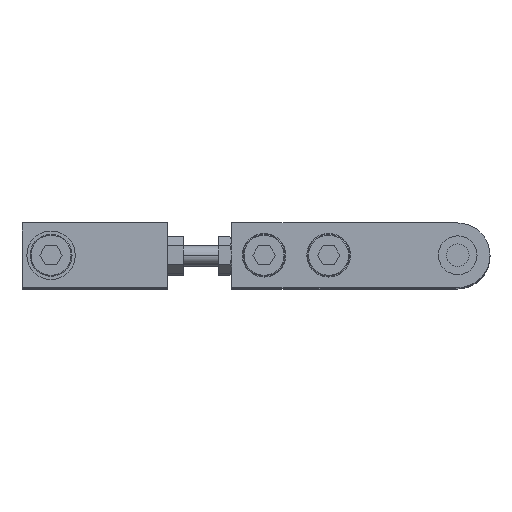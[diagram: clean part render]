
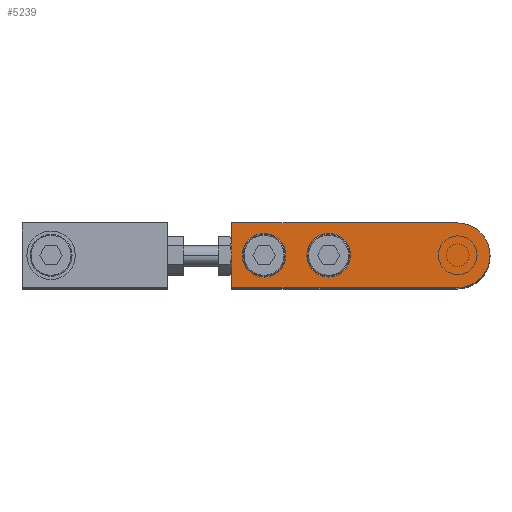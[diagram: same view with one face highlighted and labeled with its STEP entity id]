
A CAD part, top view. The second image highlights one B-rep face of the part: STEP entity #5239.
In plain terms, the highlighted planar face has unit normal (0, 0, 1) as drawn and (0, 0, -1) by its records, which use the part's own axes.
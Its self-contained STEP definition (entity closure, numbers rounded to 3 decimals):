
#3 = DIRECTION ( 'NONE',  ( 0., 1., 0. ) ) ;
#248 = ORIENTED_EDGE ( 'NONE', *, *, #2841, .F. ) ;
#407 = VERTEX_POINT ( 'NONE', #611 ) ;
#455 = FACE_OUTER_BOUND ( 'NONE', #7210, .T. ) ;
#546 = EDGE_CURVE ( 'NONE', #3839, #5453, #6366, .T. ) ;
#578 = DIRECTION ( 'NONE',  ( 0., 0., -1. ) ) ;
#579 = ORIENTED_EDGE ( 'NONE', *, *, #6556, .F. ) ;
#611 = CARTESIAN_POINT ( 'NONE',  ( 33.25, 0., -5. ) ) ;
#638 = CARTESIAN_POINT ( 'NONE',  ( 40., 0., -5. ) ) ;
#671 = AXIS2_PLACEMENT_3D ( 'NONE', #5987, #6589, #3052 ) ;
#749 = CARTESIAN_POINT ( 'NONE',  ( 70., -10., -5. ) ) ;
#891 = VERTEX_POINT ( 'NONE', #7382 ) ;
#920 = VERTEX_POINT ( 'NONE', #3396 ) ;
#935 = CARTESIAN_POINT ( 'NONE',  ( -10., 0., -5. ) ) ;
#970 = EDGE_CURVE ( 'NONE', #920, #891, #4499, .T. ) ;
#1082 = AXIS2_PLACEMENT_3D ( 'NONE', #2791, #2844, #6927 ) ;
#1332 = AXIS2_PLACEMENT_3D ( 'NONE', #3516, #3417, #4641 ) ;
#1341 = CARTESIAN_POINT ( 'NONE',  ( 46.75, 0., -5. ) ) ;
#1601 = ORIENTED_EDGE ( 'NONE', *, *, #970, .F. ) ;
#1743 = DIRECTION ( 'NONE',  ( -1., 0., 0. ) ) ;
#1999 = DIRECTION ( 'NONE',  ( 0., 0., -1. ) ) ;
#2057 = CARTESIAN_POINT ( 'NONE',  ( 0., -10., -5. ) ) ;
#2445 = CIRCLE ( 'NONE', #1082, 6.75 ) ;
#2531 = DIRECTION ( 'NONE',  ( 0., 0., 1. ) ) ;
#2535 = CIRCLE ( 'NONE', #4076, 10. ) ;
#2633 = VECTOR ( 'NONE', #6143, 1000. ) ;
#2635 = CIRCLE ( 'NONE', #5518, 6.75 ) ;
#2791 = CARTESIAN_POINT ( 'NONE',  ( 60., 0., -5. ) ) ;
#2841 = EDGE_CURVE ( 'NONE', #7387, #407, #2635, .T. ) ;
#2844 = DIRECTION ( 'NONE',  ( 0., 0., -1. ) ) ;
#2858 = CARTESIAN_POINT ( 'NONE',  ( 40., 0., -5. ) ) ;
#2861 = CARTESIAN_POINT ( 'NONE',  ( 70., 10., -5. ) ) ;
#2946 = VERTEX_POINT ( 'NONE', #749 ) ;
#2971 = ORIENTED_EDGE ( 'NONE', *, *, #3547, .F. ) ;
#3052 = DIRECTION ( 'NONE',  ( -1., 0., 0. ) ) ;
#3155 = CARTESIAN_POINT ( 'NONE',  ( 0., 0., -5. ) ) ;
#3214 = VECTOR ( 'NONE', #4259, 1000. ) ;
#3333 = ORIENTED_EDGE ( 'NONE', *, *, #5985, .F. ) ;
#3383 = CIRCLE ( 'NONE', #1332, 10. ) ;
#3396 = CARTESIAN_POINT ( 'NONE',  ( 53.25, 0., -5. ) ) ;
#3411 = ORIENTED_EDGE ( 'NONE', *, *, #3451, .F. ) ;
#3417 = DIRECTION ( 'NONE',  ( 0., 0., 1. ) ) ;
#3451 = EDGE_CURVE ( 'NONE', #5453, #3610, #2535, .T. ) ;
#3516 = CARTESIAN_POINT ( 'NONE',  ( 0., 0., -5. ) ) ;
#3547 = EDGE_CURVE ( 'NONE', #7400, #2946, #6983, .T. ) ;
#3610 = VERTEX_POINT ( 'NONE', #935 ) ;
#3673 = CARTESIAN_POINT ( 'NONE',  ( 0., 10., -5. ) ) ;
#3839 = VERTEX_POINT ( 'NONE', #2861 ) ;
#4067 = ORIENTED_EDGE ( 'NONE', *, *, #546, .F. ) ;
#4076 = AXIS2_PLACEMENT_3D ( 'NONE', #5496, #2531, #4830 ) ;
#4259 = DIRECTION ( 'NONE',  ( -1., 0., 0. ) ) ;
#4499 = CIRCLE ( 'NONE', #671, 6.75 ) ;
#4513 = EDGE_CURVE ( 'NONE', #2946, #3839, #6067, .T. ) ;
#4641 = DIRECTION ( 'NONE',  ( 1., 0., 0. ) ) ;
#4830 = DIRECTION ( 'NONE',  ( 1., 0., 0. ) ) ;
#4919 = AXIS2_PLACEMENT_3D ( 'NONE', #2858, #578, #1743 ) ;
#4948 = EDGE_CURVE ( 'NONE', #891, #920, #2445, .T. ) ;
#5001 = ORIENTED_EDGE ( 'NONE', *, *, #4948, .F. ) ;
#5209 = CARTESIAN_POINT ( 'NONE',  ( 70., 10., -5. ) ) ;
#5220 = FACE_BOUND ( 'NONE', #6015, .T. ) ;
#5239 = ADVANCED_FACE ( 'NONE', ( #5220, #5321, #455 ), #6115, .F. ) ;
#5248 = CARTESIAN_POINT ( 'NONE',  ( 0., 10., -5. ) ) ;
#5321 = FACE_BOUND ( 'NONE', #5399, .T. ) ;
#5399 = EDGE_LOOP ( 'NONE', ( #579, #248 ) ) ;
#5453 = VERTEX_POINT ( 'NONE', #5248 ) ;
#5495 = DIRECTION ( 'NONE',  ( -1., 0., 0. ) ) ;
#5496 = CARTESIAN_POINT ( 'NONE',  ( 0., 0., -5. ) ) ;
#5504 = CARTESIAN_POINT ( 'NONE',  ( 0., -10., -5. ) ) ;
#5518 = AXIS2_PLACEMENT_3D ( 'NONE', #638, #1999, #5495 ) ;
#5985 = EDGE_CURVE ( 'NONE', #3610, #7400, #3383, .T. ) ;
#5987 = CARTESIAN_POINT ( 'NONE',  ( 60., 0., -5. ) ) ;
#6015 = EDGE_LOOP ( 'NONE', ( #1601, #5001 ) ) ;
#6067 = LINE ( 'NONE', #5209, #6793 ) ;
#6115 = PLANE ( 'NONE',  #6276 ) ;
#6142 = DIRECTION ( 'NONE',  ( 0., 0., 1. ) ) ;
#6143 = DIRECTION ( 'NONE',  ( 1., 0., 0. ) ) ;
#6276 = AXIS2_PLACEMENT_3D ( 'NONE', #3155, #6142, #6734 ) ;
#6366 = LINE ( 'NONE', #3673, #3214 ) ;
#6556 = EDGE_CURVE ( 'NONE', #407, #7387, #7053, .T. ) ;
#6589 = DIRECTION ( 'NONE',  ( 0., 0., -1. ) ) ;
#6664 = ORIENTED_EDGE ( 'NONE', *, *, #4513, .F. ) ;
#6734 = DIRECTION ( 'NONE',  ( 1., 0., 0. ) ) ;
#6793 = VECTOR ( 'NONE', #3, 1000. ) ;
#6927 = DIRECTION ( 'NONE',  ( -1., 0., 0. ) ) ;
#6983 = LINE ( 'NONE', #2057, #2633 ) ;
#7053 = CIRCLE ( 'NONE', #4919, 6.75 ) ;
#7210 = EDGE_LOOP ( 'NONE', ( #3411, #4067, #6664, #2971, #3333 ) ) ;
#7382 = CARTESIAN_POINT ( 'NONE',  ( 66.75, 0., -5. ) ) ;
#7387 = VERTEX_POINT ( 'NONE', #1341 ) ;
#7400 = VERTEX_POINT ( 'NONE', #5504 ) ;
